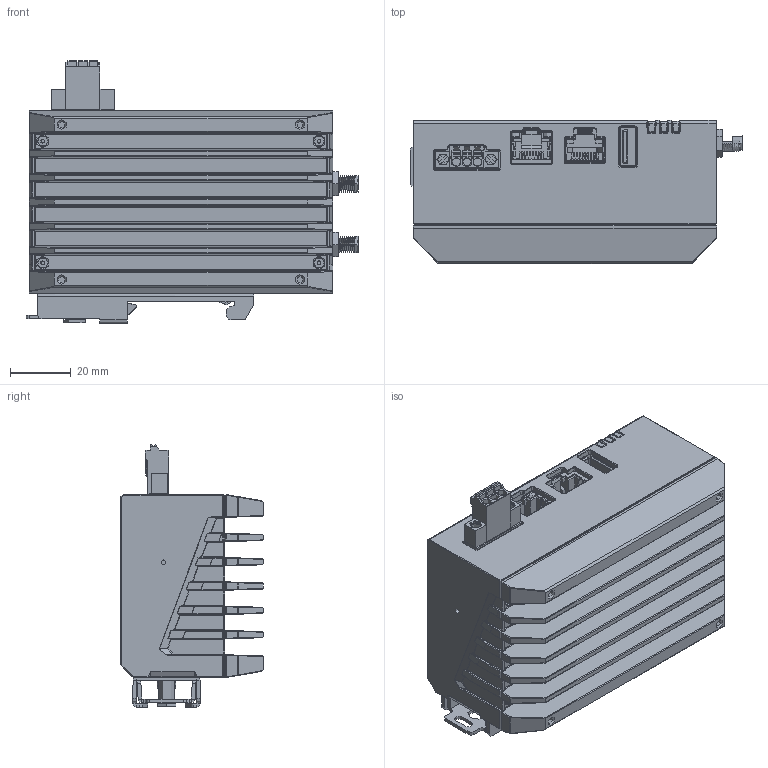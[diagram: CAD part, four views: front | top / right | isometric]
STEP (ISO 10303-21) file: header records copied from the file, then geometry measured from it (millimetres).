
FILE_DESCRIPTION((''),'2;1');
FILE_NAME('AWK_1161_T_DINRAIL_ASM','2024-04-01T14:17:30',('RositaCY_Yu'),('PTC'),'CREO PARAMETRIC BY PTC INC, 2023294','CREO PARAMETRIC BY PTC INC, 2023294','');
FILE_SCHEMA(('AUTOMOTIVE_DESIGN { 1 0 10303 214 1 1 1 1 }'));
Products named in the file (1): AWK_1161_T_DINRAIL_ASM
Bounding box: 109.3 x 47 x 86.58 mm (x, y, z)
Topology: 30 solids, 78 shells, 6353 faces, 17138 edges, 10700 vertices
Faces by surface type: plane 3453, cylinder 2012, bspline 239, torus 226, cone 215, sphere 199, extrusion 9
Full cylindrical faces by diameter (mm): 0.825 x2, 1.5 x3, 2.355 x2
Entity records: 253075 total; most frequent: CARTESIAN_POINT 70375, ORIENTED_EDGE 33426, DIRECTION 30972, EDGE_CURVE 16965, VECTOR 11444, LINE 11435, VERTEX_POINT 10724, AXIS2_PLACEMENT_3D 9764
